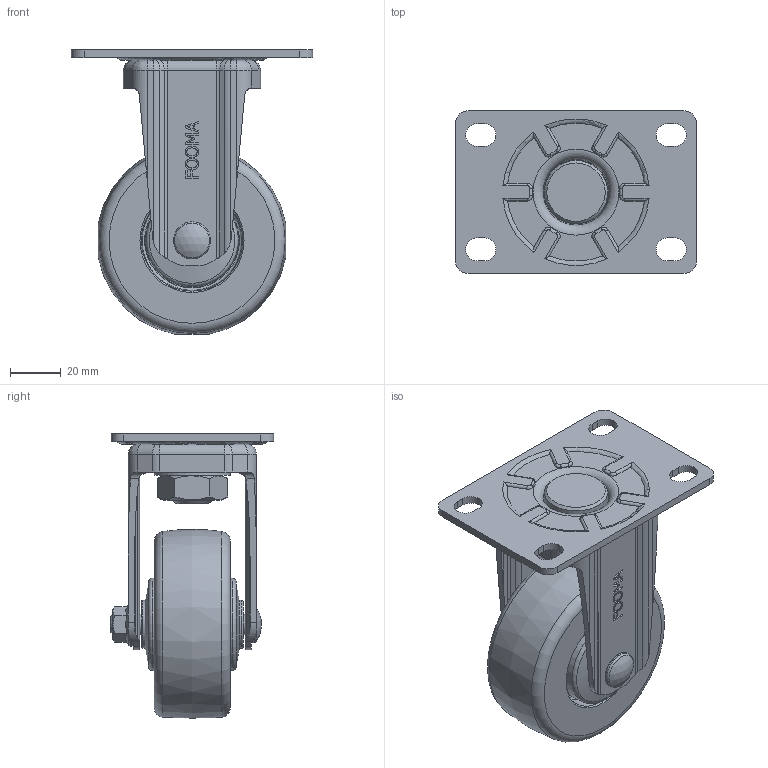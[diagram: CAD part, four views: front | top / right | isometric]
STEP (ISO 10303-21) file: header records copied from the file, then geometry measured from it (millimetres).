
FILE_DESCRIPTION(/* description */ (''),/* implementation_level */ '2;1');
FILE_NAME(/* name */ 'E:\홈페이지용3d\STEP\PL-75-ARF-LUD.stp',/* time_stamp */ '2015-03-19T11:37:48+09:00',/* author */ ('장용하'),/* organization */ (''),/* preprocessor_version */ 'ST-DEVELOPER v15.6',/* originating_system */ 'Autodesk Inventor 2015',/* authorisation */ '');
FILE_SCHEMA (('AUTOMOTIVE_DESIGN { 1 0 10303 214 3 1 1 }'));
Length unit declared in the file: centimetre
Products named in the file (1): PL-75-ARF-LUD
Bounding box: 95 x 64.25 x 111.87 mm (x, y, z)
Volume: 180819.5 mm3; surface area: 57814.5 mm2
Topology: 1 solids, 2 shells, 731 faces, 1851 edges, 1153 vertices
Faces by surface type: plane 288, cylinder 218, bspline 111, torus 75, cone 38, sphere 1
Full cylindrical faces by diameter (mm): 8 x2, 12.084 x2, 14.6 x1, 16 x2, 17 x1, 18 x1, 25 x1, 30 x1
Entity records: 24204 total; most frequent: CARTESIAN_POINT 6540, ORIENTED_EDGE 3560, DIRECTION 3438, EDGE_CURVE 1777, AXIS2_PLACEMENT_3D 1279, VERTEX_POINT 1144, LINE 880, VECTOR 880
